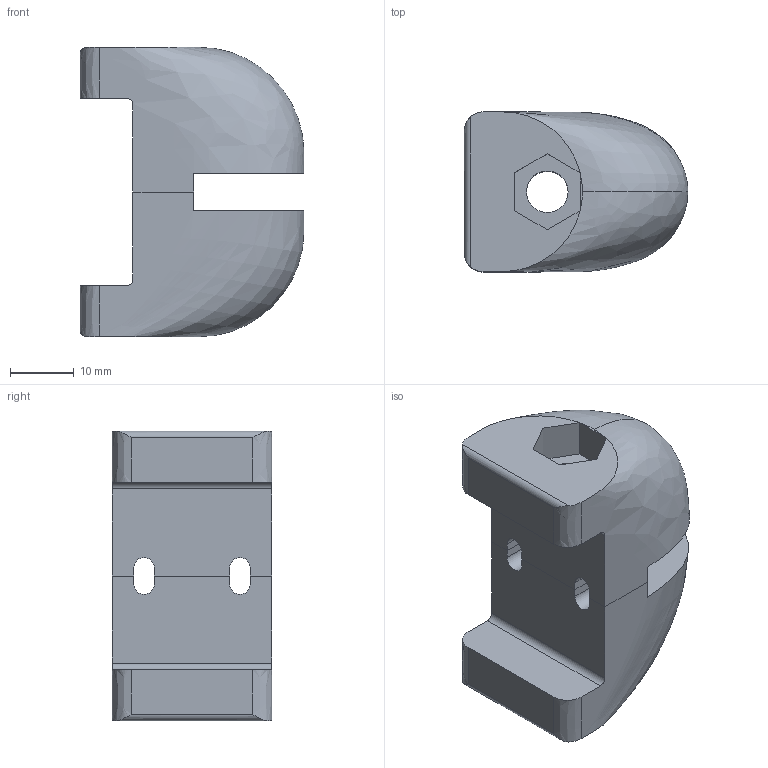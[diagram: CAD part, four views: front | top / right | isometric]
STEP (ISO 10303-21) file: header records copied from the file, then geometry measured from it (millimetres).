
FILE_DESCRIPTION (( 'STEP AP214' ), '1' );
FILE_NAME ('L19134B-L19134B.step', '2024-12-03T16:24:25', ( '' ), ( '' ), 'SwSTEP 2.0', 'SolidWorks 2023', '' );
FILE_SCHEMA (( 'AUTOMOTIVE_DESIGN' ));
Length unit declared in the file: millimetre
Products named in the file (2): L19134B-L19134B; L19134B
Assembly tree (2 placements, depth 2):
  L19134B-L19134B
    L19134B  x2
Bounding box: 35 x 25 x 45.3 mm (x, y, z)
Volume: 21515.6 mm3; surface area: 7681.3 mm2
Topology: 2 solids, 2 shells, 64 faces, 174 edges, 114 vertices
Faces by surface type: plane 46, cylinder 10, bspline 8
Full cylindrical faces by diameter (mm): 6.5 x2
Entity records: 1657 total; most frequent: CARTESIAN_POINT 813, ORIENTED_EDGE 170, DIRECTION 158, EDGE_CURVE 85, VECTOR 56, LINE 56, VERTEX_POINT 56, AXIS2_PLACEMENT_3D 51
